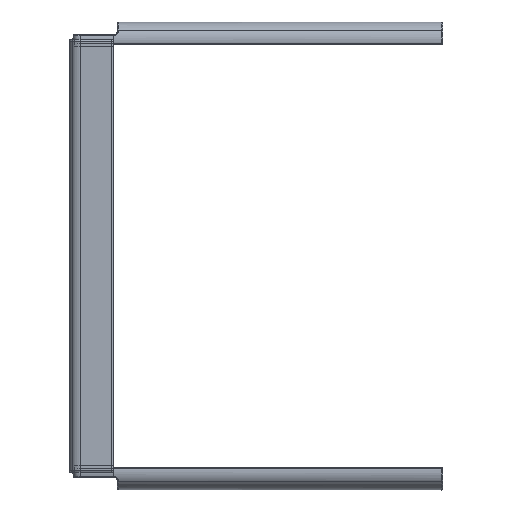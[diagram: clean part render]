
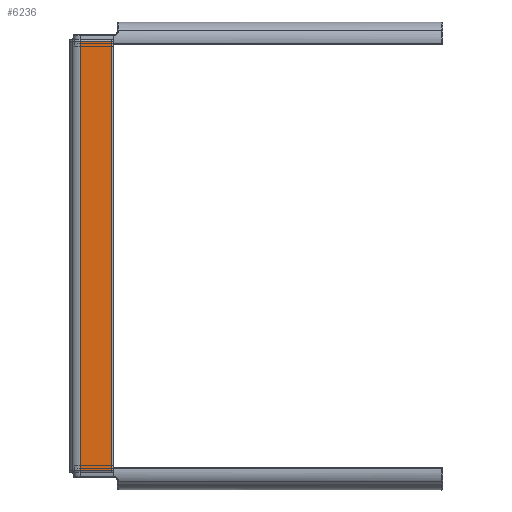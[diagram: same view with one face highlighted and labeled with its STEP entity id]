
A CAD part, left-side view. The second image highlights one B-rep face of the part: STEP entity #6236.
In plain terms, the highlighted planar face has unit normal (-1, 0, 0).
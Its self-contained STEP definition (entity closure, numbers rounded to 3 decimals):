
#59 = VECTOR ( 'NONE', #15913, 1000. ) ;
#443 = VECTOR ( 'NONE', #12653, 1000. ) ;
#738 = ORIENTED_EDGE ( 'NONE', *, *, #15673, .F. ) ;
#2462 = VECTOR ( 'NONE', #10156, 1000. ) ;
#3643 = ORIENTED_EDGE ( 'NONE', *, *, #13625, .T. ) ;
#4569 = VECTOR ( 'NONE', #13822, 1000. ) ;
#5011 = PLANE ( 'NONE',  #10952 ) ;
#5207 = DIRECTION ( 'NONE',  ( 0., 0., -1. ) ) ;
#5614 = CARTESIAN_POINT ( 'NONE',  ( -1100., 737.4, -437. ) ) ;
#5692 = EDGE_LOOP ( 'NONE', ( #10303, #3643, #9003, #738 ) ) ;
#6086 = VERTEX_POINT ( 'NONE', #16361 ) ;
#6236 = ADVANCED_FACE ( 'NONE', ( #15666 ), #5011, .F. ) ;
#6758 = DIRECTION ( 'NONE',  ( 1., 0., 0. ) ) ;
#6857 = CARTESIAN_POINT ( 'NONE',  ( -1100., 673., -437. ) ) ;
#6949 = VERTEX_POINT ( 'NONE', #8561 ) ;
#8561 = CARTESIAN_POINT ( 'NONE',  ( -1100., 737.4, 437. ) ) ;
#9003 = ORIENTED_EDGE ( 'NONE', *, *, #17447, .T. ) ;
#9627 = CARTESIAN_POINT ( 'NONE',  ( -1100., 760., -437. ) ) ;
#9812 = LINE ( 'NONE', #9627, #443 ) ;
#10156 = DIRECTION ( 'NONE',  ( 0., 0., 1. ) ) ;
#10303 = ORIENTED_EDGE ( 'NONE', *, *, #10785, .T. ) ;
#10677 = CARTESIAN_POINT ( 'NONE',  ( -1100., 737.4, -440. ) ) ;
#10785 = EDGE_CURVE ( 'NONE', #14226, #14895, #9812, .T. ) ;
#10880 = LINE ( 'NONE', #10677, #4569 ) ;
#10952 = AXIS2_PLACEMENT_3D ( 'NONE', #18505, #6758, #5207 ) ;
#11492 = CARTESIAN_POINT ( 'NONE',  ( -1100., 737.4, 437. ) ) ;
#11584 = LINE ( 'NONE', #11492, #59 ) ;
#12653 = DIRECTION ( 'NONE',  ( 0., -1., 0. ) ) ;
#13286 = CARTESIAN_POINT ( 'NONE',  ( -1100., 673., 440. ) ) ;
#13625 = EDGE_CURVE ( 'NONE', #14895, #6086, #17699, .T. ) ;
#13822 = DIRECTION ( 'NONE',  ( 0., 0., 1. ) ) ;
#14226 = VERTEX_POINT ( 'NONE', #5614 ) ;
#14895 = VERTEX_POINT ( 'NONE', #6857 ) ;
#15666 = FACE_OUTER_BOUND ( 'NONE', #5692, .T. ) ;
#15673 = EDGE_CURVE ( 'NONE', #14226, #6949, #10880, .T. ) ;
#15913 = DIRECTION ( 'NONE',  ( 0., 1., 0. ) ) ;
#16361 = CARTESIAN_POINT ( 'NONE',  ( -1100., 673., 437. ) ) ;
#17447 = EDGE_CURVE ( 'NONE', #6086, #6949, #11584, .T. ) ;
#17699 = LINE ( 'NONE', #13286, #2462 ) ;
#18505 = CARTESIAN_POINT ( 'NONE',  ( -1100., 760., 440. ) ) ;
